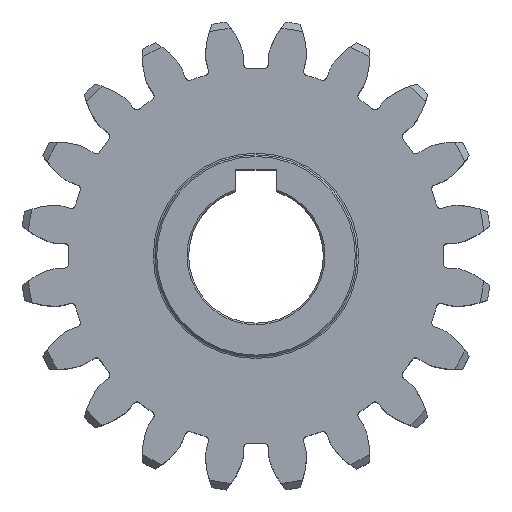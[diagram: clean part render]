
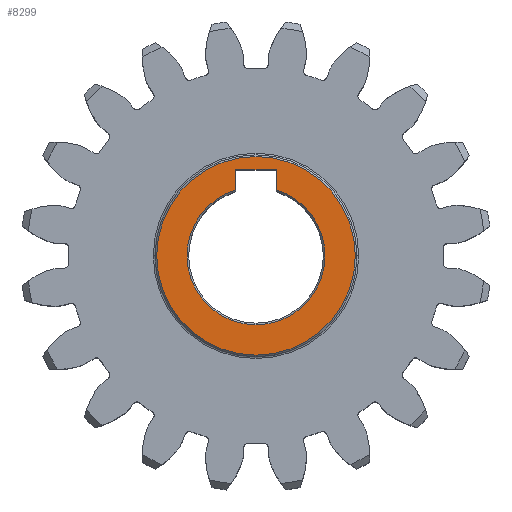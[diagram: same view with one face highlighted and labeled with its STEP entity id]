
A CAD part, top view. The second image highlights one B-rep face of the part: STEP entity #8299.
In plain terms, the highlighted planar face has unit normal (0, 0, 1).
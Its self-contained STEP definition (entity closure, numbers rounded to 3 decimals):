
#114 = DIRECTION ( 'NONE',  ( 0., -1., 0. ) ) ;
#233 = CARTESIAN_POINT ( 'NONE',  ( 3., 7.2, 15. ) ) ;
#497 = DIRECTION ( 'NONE',  ( 0., 1., 0. ) ) ;
#513 = CARTESIAN_POINT ( 'NONE',  ( 3., 12.8, 15. ) ) ;
#588 = DIRECTION ( 'NONE',  ( 1., 0., 0. ) ) ;
#1038 = PLANE ( 'NONE',  #9353 ) ;
#1722 = VERTEX_POINT ( 'NONE', #9348 ) ;
#1786 = CIRCLE ( 'NONE', #5902, 10.25 ) ;
#2010 = EDGE_LOOP ( 'NONE', ( #5302, #9084, #5783, #6681, #10707, #9258 ) ) ;
#2055 = VERTEX_POINT ( 'NONE', #8568 ) ;
#2290 = EDGE_CURVE ( 'NONE', #10998, #1722, #10309, .T. ) ;
#2320 = EDGE_CURVE ( 'NONE', #8760, #4181, #4040, .T. ) ;
#2523 = VECTOR ( 'NONE', #114, 1000. ) ;
#2611 = DIRECTION ( 'NONE',  ( 0., 0., -1. ) ) ;
#2999 = DIRECTION ( 'NONE',  ( 0., 0., -1. ) ) ;
#3564 = EDGE_CURVE ( 'NONE', #3839, #5347, #12481, .T. ) ;
#3626 = LINE ( 'NONE', #513, #4953 ) ;
#3662 = EDGE_CURVE ( 'NONE', #4181, #8760, #6418, .T. ) ;
#3839 = VERTEX_POINT ( 'NONE', #9789 ) ;
#4040 = CIRCLE ( 'NONE', #10514, 14.75 ) ;
#4181 = VERTEX_POINT ( 'NONE', #6799 ) ;
#4215 = DIRECTION ( 'NONE',  ( 0., 0., -1. ) ) ;
#4346 = CARTESIAN_POINT ( 'NONE',  ( -3., 7.2, 15. ) ) ;
#4707 = EDGE_CURVE ( 'NONE', #11180, #3839, #3626, .T. ) ;
#4953 = VECTOR ( 'NONE', #7768, 1000. ) ;
#4970 = FACE_BOUND ( 'NONE', #2010, .T. ) ;
#5026 = EDGE_LOOP ( 'NONE', ( #10519, #11384 ) ) ;
#5113 = AXIS2_PLACEMENT_3D ( 'NONE', #5873, #2611, #588 ) ;
#5117 = DIRECTION ( 'NONE',  ( 1., 0., 0. ) ) ;
#5302 = ORIENTED_EDGE ( 'NONE', *, *, #3564, .T. ) ;
#5347 = VERTEX_POINT ( 'NONE', #6266 ) ;
#5783 = ORIENTED_EDGE ( 'NONE', *, *, #10682, .T. ) ;
#5861 = CIRCLE ( 'NONE', #7374, 10.25 ) ;
#5873 = CARTESIAN_POINT ( 'NONE',  ( 0., 0., 15. ) ) ;
#5902 = AXIS2_PLACEMENT_3D ( 'NONE', #10389, #2999, #12219 ) ;
#5930 = DIRECTION ( 'NONE',  ( 1., 0., 0. ) ) ;
#6186 = DIRECTION ( 'NONE',  ( 1., 0., 0. ) ) ;
#6266 = CARTESIAN_POINT ( 'NONE',  ( 3., 9.801, 15. ) ) ;
#6400 = CARTESIAN_POINT ( 'NONE',  ( 0., 0., 15. ) ) ;
#6418 = CIRCLE ( 'NONE', #8169, 14.75 ) ;
#6681 = ORIENTED_EDGE ( 'NONE', *, *, #2290, .T. ) ;
#6799 = CARTESIAN_POINT ( 'NONE',  ( -14.75, 0., 15. ) ) ;
#7374 = AXIS2_PLACEMENT_3D ( 'NONE', #10568, #4215, #6186 ) ;
#7376 = CARTESIAN_POINT ( 'NONE',  ( 14.75, 0., 15. ) ) ;
#7580 = CARTESIAN_POINT ( 'NONE',  ( -3., 12.8, 15. ) ) ;
#7768 = DIRECTION ( 'NONE',  ( 1., 0., 0. ) ) ;
#8169 = AXIS2_PLACEMENT_3D ( 'NONE', #6400, #11742, #9447 ) ;
#8299 = ADVANCED_FACE ( 'NONE', ( #10319, #4970 ), #1038, .T. ) ;
#8568 = CARTESIAN_POINT ( 'NONE',  ( 10.25, 0., 15. ) ) ;
#8760 = VERTEX_POINT ( 'NONE', #7376 ) ;
#9027 = DIRECTION ( 'NONE',  ( 0., 0., 1. ) ) ;
#9084 = ORIENTED_EDGE ( 'NONE', *, *, #13308, .T. ) ;
#9258 = ORIENTED_EDGE ( 'NONE', *, *, #4707, .T. ) ;
#9348 = CARTESIAN_POINT ( 'NONE',  ( -3., 9.801, 15. ) ) ;
#9353 = AXIS2_PLACEMENT_3D ( 'NONE', #13346, #9027, #5930 ) ;
#9447 = DIRECTION ( 'NONE',  ( 1., 0., 0. ) ) ;
#9789 = CARTESIAN_POINT ( 'NONE',  ( 3., 12.8, 15. ) ) ;
#10309 = CIRCLE ( 'NONE', #5113, 10.25 ) ;
#10319 = FACE_OUTER_BOUND ( 'NONE', #5026, .T. ) ;
#10389 = CARTESIAN_POINT ( 'NONE',  ( 0., 0., 15. ) ) ;
#10514 = AXIS2_PLACEMENT_3D ( 'NONE', #12831, #11825, #5117 ) ;
#10519 = ORIENTED_EDGE ( 'NONE', *, *, #3662, .T. ) ;
#10568 = CARTESIAN_POINT ( 'NONE',  ( 0., 0., 15. ) ) ;
#10682 = EDGE_CURVE ( 'NONE', #2055, #10998, #1786, .T. ) ;
#10707 = ORIENTED_EDGE ( 'NONE', *, *, #11761, .T. ) ;
#10998 = VERTEX_POINT ( 'NONE', #12840 ) ;
#11180 = VERTEX_POINT ( 'NONE', #7580 ) ;
#11384 = ORIENTED_EDGE ( 'NONE', *, *, #2320, .T. ) ;
#11742 = DIRECTION ( 'NONE',  ( 0., 0., 1. ) ) ;
#11761 = EDGE_CURVE ( 'NONE', #1722, #11180, #12807, .T. ) ;
#11825 = DIRECTION ( 'NONE',  ( 0., 0., 1. ) ) ;
#12219 = DIRECTION ( 'NONE',  ( 1., 0., 0. ) ) ;
#12481 = LINE ( 'NONE', #233, #2523 ) ;
#12807 = LINE ( 'NONE', #4346, #13033 ) ;
#12831 = CARTESIAN_POINT ( 'NONE',  ( 0., 0., 15. ) ) ;
#12840 = CARTESIAN_POINT ( 'NONE',  ( -10.25, 0., 15. ) ) ;
#13033 = VECTOR ( 'NONE', #497, 1000. ) ;
#13308 = EDGE_CURVE ( 'NONE', #5347, #2055, #5861, .T. ) ;
#13346 = CARTESIAN_POINT ( 'NONE',  ( 0., 0., 15. ) ) ;
